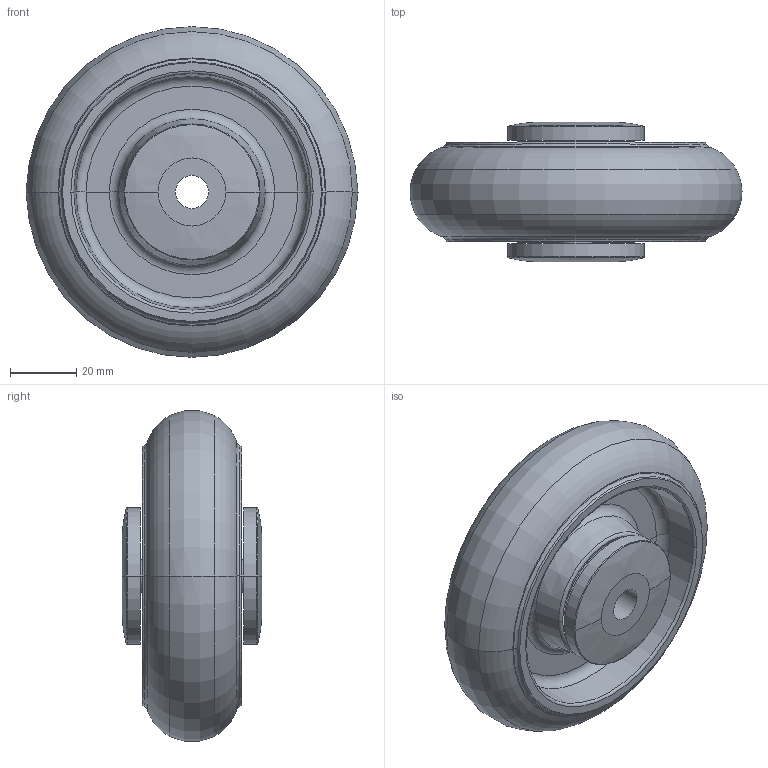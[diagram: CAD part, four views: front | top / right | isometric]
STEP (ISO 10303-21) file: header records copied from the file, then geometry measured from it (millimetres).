
FILE_DESCRIPTION((''),'2;1');
FILE_NAME('PRT0005','2025-12-22T11:40:06',('Administrator'),(''),'CREO PARAMETRIC BY PTC INC, 2022124','CREO PARAMETRIC BY PTC INC, 2022124','');
FILE_SCHEMA(('AUTOMOTIVE_DESIGN { 1 0 10303 214 1 1 1 1 }'));
Length unit declared in the file: millimetre
Products named in the file (1): PRT0005
Bounding box: 100 x 42 x 99.61 mm (x, y, z)
Surface area: 30585.8 mm2 (no closed solid volume)
Topology: 0 solids, 7 shells, 70 faces, 154 edges, 88 vertices
Faces by surface type: torus 34, cone 20, cylinder 8, plane 4, bspline 4
Entity records: 2676 total; most frequent: DIRECTION 435, CARTESIAN_POINT 434, ORIENTED_EDGE 280, AXIS2_PLACEMENT_3D 202, EDGE_CURVE 154, CIRCLE 126, VERTEX_POINT 88, EDGE_LOOP 74
